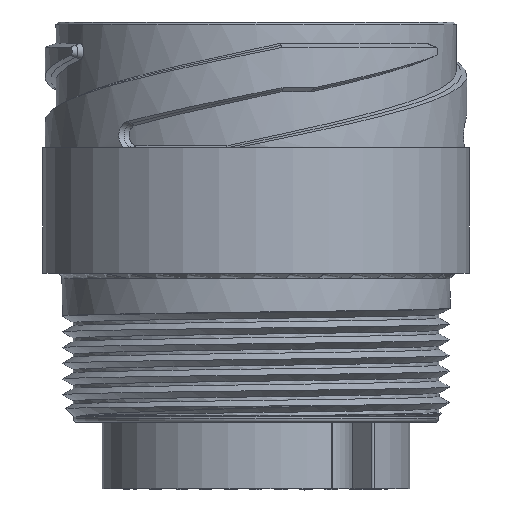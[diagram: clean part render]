
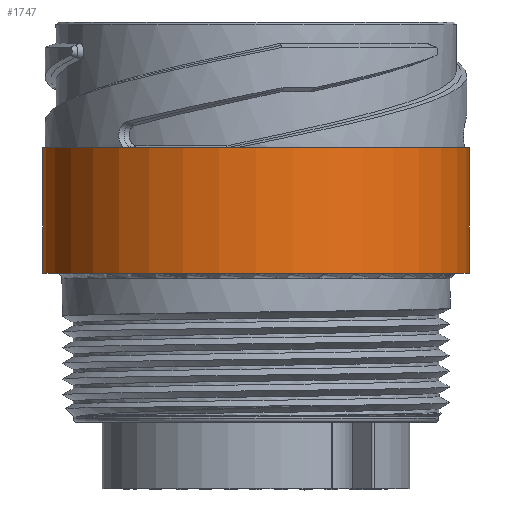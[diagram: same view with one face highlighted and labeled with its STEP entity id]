
A CAD part, front view. The second image highlights one B-rep face of the part: STEP entity #1747.
In plain terms, the highlighted cylindrical face has radius 19.195 mm (diameter 38.39 mm), a full revolution.
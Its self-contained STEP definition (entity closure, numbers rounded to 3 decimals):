
#156 = AXIS2_PLACEMENT_3D ( 'NONE', #21442, #41124, #35196 ) ;
#1102 = CARTESIAN_POINT ( 'NONE',  ( 0., 0., -11.3 ) ) ;
#1391 = DIRECTION ( 'NONE',  ( 0., 0., -1. ) ) ;
#1574 = CYLINDRICAL_SURFACE ( 'NONE', #156, 19.195 ) ;
#1747 = ADVANCED_FACE ( 'NONE', ( #53934, #14426 ), #1574, .T. ) ;
#7384 = DIRECTION ( 'NONE',  ( -1., 0., 0. ) ) ;
#8051 = CARTESIAN_POINT ( 'NONE',  ( 0., 0., -22.6 ) ) ;
#8332 = DIRECTION ( 'NONE',  ( 0., 0., -1. ) ) ;
#14426 = FACE_OUTER_BOUND ( 'NONE', #49075, .T. ) ;
#15552 = EDGE_CURVE ( 'NONE', #71740, #71740, #86079, .T. ) ;
#21442 = CARTESIAN_POINT ( 'NONE',  ( 0., 0., -19.9 ) ) ;
#25381 = EDGE_LOOP ( 'NONE', ( #52120 ) ) ;
#25640 = AXIS2_PLACEMENT_3D ( 'NONE', #1102, #1391, #7384 ) ;
#30368 = AXIS2_PLACEMENT_3D ( 'NONE', #8051, #8332, #82998 ) ;
#35196 = DIRECTION ( 'NONE',  ( 1., 0., 0. ) ) ;
#38686 = CIRCLE ( 'NONE', #30368, 19.195 ) ;
#41124 = DIRECTION ( 'NONE',  ( 0., 0., 1. ) ) ;
#46603 = ORIENTED_EDGE ( 'NONE', *, *, #63708, .F. ) ;
#49075 = EDGE_LOOP ( 'NONE', ( #46603 ) ) ;
#52120 = ORIENTED_EDGE ( 'NONE', *, *, #15552, .T. ) ;
#52409 = VERTEX_POINT ( 'NONE', #73994 ) ;
#53934 = FACE_OUTER_BOUND ( 'NONE', #25381, .T. ) ;
#63708 = EDGE_CURVE ( 'NONE', #52409, #52409, #38686, .T. ) ;
#65677 = CARTESIAN_POINT ( 'NONE',  ( -19.195, 0., -11.3 ) ) ;
#71740 = VERTEX_POINT ( 'NONE', #65677 ) ;
#73994 = CARTESIAN_POINT ( 'NONE',  ( -19.195, 0., -22.6 ) ) ;
#82998 = DIRECTION ( 'NONE',  ( -1., 0., 0. ) ) ;
#86079 = CIRCLE ( 'NONE', #25640, 19.195 ) ;
